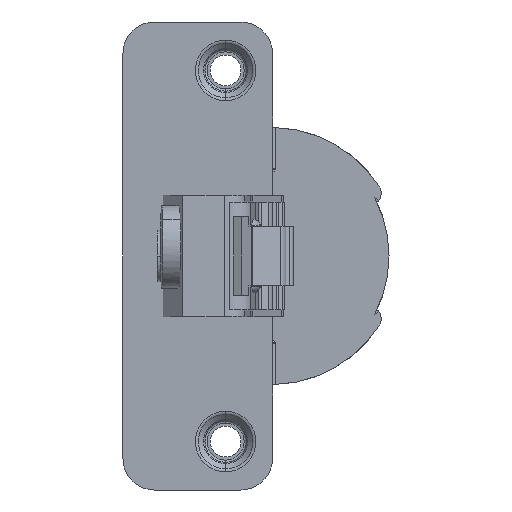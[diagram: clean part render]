
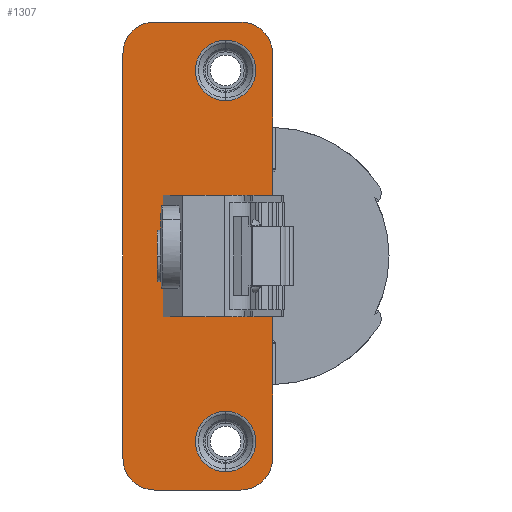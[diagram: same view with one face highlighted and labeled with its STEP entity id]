
A CAD part, left-side view. The second image highlights one B-rep face of the part: STEP entity #1307.
In plain terms, the highlighted planar face has unit normal (-1, 0, 0).
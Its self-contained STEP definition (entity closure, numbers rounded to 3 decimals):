
#51 = CARTESIAN_POINT ( 'NONE',  ( 5.081, 19.638, 32.782 ) ) ;
#244 = DIRECTION ( 'NONE',  ( 0., -1., 0. ) ) ;
#247 = VECTOR ( 'NONE', #277, 1000. ) ;
#273 = VERTEX_POINT ( 'NONE', #476 ) ;
#277 = DIRECTION ( 'NONE',  ( 0., 0., 1. ) ) ;
#415 = DIRECTION ( 'NONE',  ( 0., 1., 0. ) ) ;
#442 = EDGE_LOOP ( 'NONE', ( #2082, #3785 ) ) ;
#466 = LINE ( 'NONE', #975, #5465 ) ;
#476 = CARTESIAN_POINT ( 'NONE',  ( 5.081, 7.566, -32.782 ) ) ;
#530 = VERTEX_POINT ( 'NONE', #2859 ) ;
#587 = DIRECTION ( 'NONE',  ( 0., -1., 0. ) ) ;
#588 = CARTESIAN_POINT ( 'NONE',  ( 5.081, 7.566, 28.336 ) ) ;
#601 = DIRECTION ( 'NONE',  ( -1., 0., 0. ) ) ;
#664 = PLANE ( 'NONE',  #5019 ) ;
#679 = DIRECTION ( 'NONE',  ( 0., -1., 0. ) ) ;
#739 = DIRECTION ( 'NONE',  ( 0., -1., 0. ) ) ;
#754 = LINE ( 'NONE', #4585, #247 ) ;
#758 = VECTOR ( 'NONE', #739, 1000. ) ;
#834 = CARTESIAN_POINT ( 'NONE',  ( 5.081, 19.638, 32.782 ) ) ;
#847 = ORIENTED_EDGE ( 'NONE', *, *, #4486, .T. ) ;
#893 = CARTESIAN_POINT ( 'NONE',  ( 5.081, 18.426, -8.5 ) ) ;
#896 = DIRECTION ( 'NONE',  ( 0., 0., 1. ) ) ;
#914 = EDGE_CURVE ( 'NONE', #5345, #2344, #3693, .T. ) ;
#975 = CARTESIAN_POINT ( 'NONE',  ( 5.081, 3.12, -28.336 ) ) ;
#998 = ORIENTED_EDGE ( 'NONE', *, *, #3987, .T. ) ;
#1088 = VERTEX_POINT ( 'NONE', #2502 ) ;
#1177 = FACE_BOUND ( 'NONE', #442, .T. ) ;
#1194 = DIRECTION ( 'NONE',  ( 0., -1., 0. ) ) ;
#1292 = CARTESIAN_POINT ( 'NONE',  ( 5.081, 24.084, 28.336 ) ) ;
#1307 = ADVANCED_FACE ( 'NONE', ( #3058, #1177, #4969 ), #664, .T. ) ;
#1370 = DIRECTION ( 'NONE',  ( 1., 0., 0. ) ) ;
#1381 = ORIENTED_EDGE ( 'NONE', *, *, #4251, .T. ) ;
#1402 = EDGE_CURVE ( 'NONE', #3517, #5149, #2814, .T. ) ;
#1415 = ORIENTED_EDGE ( 'NONE', *, *, #5210, .T. ) ;
#1425 = CARTESIAN_POINT ( 'NONE',  ( 5.081, 3.12, 8.5 ) ) ;
#1508 = EDGE_CURVE ( 'NONE', #4396, #1088, #3224, .T. ) ;
#1631 = EDGE_LOOP ( 'NONE', ( #5360, #998, #1415, #2435, #4680, #847, #5800, #3155, #4687, #2269, #5495, #2836 ) ) ;
#1792 = EDGE_CURVE ( 'NONE', #273, #530, #3914, .T. ) ;
#1963 = AXIS2_PLACEMENT_3D ( 'NONE', #588, #4483, #679 ) ;
#2078 = AXIS2_PLACEMENT_3D ( 'NONE', #2719, #3654, #5943 ) ;
#2082 = ORIENTED_EDGE ( 'NONE', *, *, #1508, .T. ) ;
#2102 = VERTEX_POINT ( 'NONE', #4602 ) ;
#2153 = DIRECTION ( 'NONE',  ( 1., 0., 0. ) ) ;
#2222 = CARTESIAN_POINT ( 'NONE',  ( 5.081, 24.084, -28.336 ) ) ;
#2244 = CARTESIAN_POINT ( 'NONE',  ( 5.081, 9.702, -21.751 ) ) ;
#2269 = ORIENTED_EDGE ( 'NONE', *, *, #5416, .T. ) ;
#2285 = VERTEX_POINT ( 'NONE', #2733 ) ;
#2309 = DIRECTION ( 'NONE',  ( 0., 0., 1. ) ) ;
#2344 = VERTEX_POINT ( 'NONE', #5283 ) ;
#2421 = AXIS2_PLACEMENT_3D ( 'NONE', #5734, #6213, #244 ) ;
#2435 = ORIENTED_EDGE ( 'NONE', *, *, #6148, .T. ) ;
#2463 = CIRCLE ( 'NONE', #5560, 4.249 ) ;
#2486 = DIRECTION ( 'NONE',  ( -1., 0., 0. ) ) ;
#2502 = CARTESIAN_POINT ( 'NONE',  ( 5.081, 9.702, 21.751 ) ) ;
#2542 = CIRCLE ( 'NONE', #3341, 4.446 ) ;
#2598 = CARTESIAN_POINT ( 'NONE',  ( 5.081, 9.702, -26. ) ) ;
#2599 = DIRECTION ( 'NONE',  ( 0., 0., 1. ) ) ;
#2621 = VERTEX_POINT ( 'NONE', #51 ) ;
#2719 = CARTESIAN_POINT ( 'NONE',  ( 5.081, 19.638, -28.336 ) ) ;
#2720 = CARTESIAN_POINT ( 'NONE',  ( 5.081, 9.702, -26. ) ) ;
#2733 = CARTESIAN_POINT ( 'NONE',  ( 5.081, 3.12, -8.5 ) ) ;
#2786 = DIRECTION ( 'NONE',  ( 0., 0., -1. ) ) ;
#2814 = LINE ( 'NONE', #2222, #4710 ) ;
#2836 = ORIENTED_EDGE ( 'NONE', *, *, #1792, .T. ) ;
#2859 = CARTESIAN_POINT ( 'NONE',  ( 5.081, 3.12, -28.336 ) ) ;
#2863 = VECTOR ( 'NONE', #4217, 1000. ) ;
#3058 = FACE_BOUND ( 'NONE', #3551, .T. ) ;
#3087 = CARTESIAN_POINT ( 'NONE',  ( 5.081, 9.702, 26. ) ) ;
#3155 = ORIENTED_EDGE ( 'NONE', *, *, #3342, .T. ) ;
#3213 = CARTESIAN_POINT ( 'NONE',  ( 5.081, 18.426, 8.5 ) ) ;
#3218 = DIRECTION ( 'NONE',  ( 0., 0., 1. ) ) ;
#3224 = CIRCLE ( 'NONE', #4923, 4.249 ) ;
#3269 = CIRCLE ( 'NONE', #4758, 4.249 ) ;
#3283 = DIRECTION ( 'NONE',  ( 0., 0., 1. ) ) ;
#3288 = LINE ( 'NONE', #834, #2863 ) ;
#3341 = AXIS2_PLACEMENT_3D ( 'NONE', #3915, #2486, #587 ) ;
#3342 = EDGE_CURVE ( 'NONE', #2621, #3517, #2542, .T. ) ;
#3517 = VERTEX_POINT ( 'NONE', #1292 ) ;
#3551 = EDGE_LOOP ( 'NONE', ( #1381, #5551 ) ) ;
#3598 = CARTESIAN_POINT ( 'NONE',  ( 5.081, 9.997, 8.5 ) ) ;
#3620 = CARTESIAN_POINT ( 'NONE',  ( 5.081, 9.702, -30.249 ) ) ;
#3654 = DIRECTION ( 'NONE',  ( -1., 0., 0. ) ) ;
#3693 = LINE ( 'NONE', #3751, #5811 ) ;
#3751 = CARTESIAN_POINT ( 'NONE',  ( 5.081, 3.12, -28.336 ) ) ;
#3785 = ORIENTED_EDGE ( 'NONE', *, *, #5491, .T. ) ;
#3902 = VERTEX_POINT ( 'NONE', #893 ) ;
#3914 = CIRCLE ( 'NONE', #2421, 4.446 ) ;
#3915 = CARTESIAN_POINT ( 'NONE',  ( 5.081, 19.638, 28.336 ) ) ;
#3980 = EDGE_CURVE ( 'NONE', #5179, #2621, #3288, .T. ) ;
#3987 = EDGE_CURVE ( 'NONE', #2285, #3902, #4718, .T. ) ;
#4048 = CARTESIAN_POINT ( 'NONE',  ( 5.081, 24.084, -28.336 ) ) ;
#4056 = CARTESIAN_POINT ( 'NONE',  ( 5.081, 7.566, -26.536 ) ) ;
#4073 = CARTESIAN_POINT ( 'NONE',  ( 5.081, 7.566, -32.782 ) ) ;
#4085 = DIRECTION ( 'NONE',  ( 1., 0., 0. ) ) ;
#4159 = CIRCLE ( 'NONE', #1963, 4.446 ) ;
#4178 = DIRECTION ( 'NONE',  ( 1., 0., 0. ) ) ;
#4217 = DIRECTION ( 'NONE',  ( 0., 1., 0. ) ) ;
#4246 = CARTESIAN_POINT ( 'NONE',  ( 5.081, 12.549, -8.5 ) ) ;
#4251 = EDGE_CURVE ( 'NONE', #5791, #5524, #2463, .T. ) ;
#4315 = EDGE_CURVE ( 'NONE', #5524, #5791, #3269, .T. ) ;
#4396 = VERTEX_POINT ( 'NONE', #4682 ) ;
#4483 = DIRECTION ( 'NONE',  ( -1., 0., 0. ) ) ;
#4486 = EDGE_CURVE ( 'NONE', #2344, #5179, #4159, .T. ) ;
#4568 = EDGE_CURVE ( 'NONE', #2102, #273, #5112, .T. ) ;
#4585 = CARTESIAN_POINT ( 'NONE',  ( 5.081, 18.426, -88.107 ) ) ;
#4599 = LINE ( 'NONE', #3598, #758 ) ;
#4602 = CARTESIAN_POINT ( 'NONE',  ( 5.081, 19.638, -32.782 ) ) ;
#4674 = CIRCLE ( 'NONE', #4870, 4.249 ) ;
#4680 = ORIENTED_EDGE ( 'NONE', *, *, #914, .T. ) ;
#4682 = CARTESIAN_POINT ( 'NONE',  ( 5.081, 9.702, 30.249 ) ) ;
#4687 = ORIENTED_EDGE ( 'NONE', *, *, #1402, .T. ) ;
#4710 = VECTOR ( 'NONE', #2786, 1000. ) ;
#4718 = LINE ( 'NONE', #4246, #5557 ) ;
#4758 = AXIS2_PLACEMENT_3D ( 'NONE', #2720, #4178, #3218 ) ;
#4870 = AXIS2_PLACEMENT_3D ( 'NONE', #3087, #4085, #5002 ) ;
#4923 = AXIS2_PLACEMENT_3D ( 'NONE', #5654, #1370, #3283 ) ;
#4939 = EDGE_CURVE ( 'NONE', #530, #2285, #466, .T. ) ;
#4969 = FACE_OUTER_BOUND ( 'NONE', #1631, .T. ) ;
#4977 = CIRCLE ( 'NONE', #2078, 4.446 ) ;
#5002 = DIRECTION ( 'NONE',  ( 0., 0., 1. ) ) ;
#5019 = AXIS2_PLACEMENT_3D ( 'NONE', #4056, #601, #2599 ) ;
#5033 = DIRECTION ( 'NONE',  ( 0., 0., 1. ) ) ;
#5112 = LINE ( 'NONE', #4073, #5362 ) ;
#5149 = VERTEX_POINT ( 'NONE', #4048 ) ;
#5179 = VERTEX_POINT ( 'NONE', #5970 ) ;
#5210 = EDGE_CURVE ( 'NONE', #3902, #5836, #754, .T. ) ;
#5283 = CARTESIAN_POINT ( 'NONE',  ( 5.081, 3.12, 28.336 ) ) ;
#5345 = VERTEX_POINT ( 'NONE', #1425 ) ;
#5360 = ORIENTED_EDGE ( 'NONE', *, *, #4939, .T. ) ;
#5362 = VECTOR ( 'NONE', #1194, 1000. ) ;
#5416 = EDGE_CURVE ( 'NONE', #5149, #2102, #4977, .T. ) ;
#5465 = VECTOR ( 'NONE', #2309, 1000. ) ;
#5491 = EDGE_CURVE ( 'NONE', #1088, #4396, #4674, .T. ) ;
#5495 = ORIENTED_EDGE ( 'NONE', *, *, #4568, .T. ) ;
#5524 = VERTEX_POINT ( 'NONE', #3620 ) ;
#5551 = ORIENTED_EDGE ( 'NONE', *, *, #4315, .T. ) ;
#5557 = VECTOR ( 'NONE', #415, 1000. ) ;
#5560 = AXIS2_PLACEMENT_3D ( 'NONE', #2598, #2153, #5033 ) ;
#5654 = CARTESIAN_POINT ( 'NONE',  ( 5.081, 9.702, 26. ) ) ;
#5734 = CARTESIAN_POINT ( 'NONE',  ( 5.081, 7.566, -28.336 ) ) ;
#5791 = VERTEX_POINT ( 'NONE', #2244 ) ;
#5800 = ORIENTED_EDGE ( 'NONE', *, *, #3980, .T. ) ;
#5811 = VECTOR ( 'NONE', #896, 1000. ) ;
#5836 = VERTEX_POINT ( 'NONE', #3213 ) ;
#5943 = DIRECTION ( 'NONE',  ( 0., -1., 0. ) ) ;
#5970 = CARTESIAN_POINT ( 'NONE',  ( 5.081, 7.566, 32.782 ) ) ;
#6148 = EDGE_CURVE ( 'NONE', #5836, #5345, #4599, .T. ) ;
#6213 = DIRECTION ( 'NONE',  ( -1., 0., 0. ) ) ;
